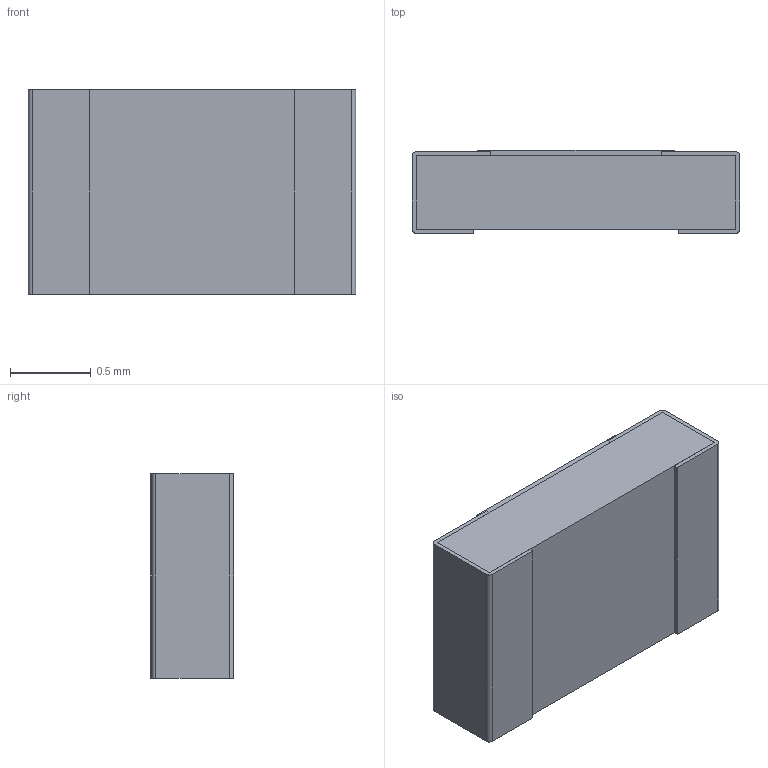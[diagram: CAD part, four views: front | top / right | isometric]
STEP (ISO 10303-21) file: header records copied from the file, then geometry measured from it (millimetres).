
FILE_DESCRIPTION(/* description */ (''),/* implementation_level */ '2;1');
FILE_NAME(/* name */ 'C:\Users\Public\Documents\Autodesk\Inventor LT 2014\Workspace\Vishay\STEP Files\PTN0805.stp',/* time_stamp */ '2020-01-08T14:52:45-06:00',/* author */ ('Neil'),/* organization */ (''),/* preprocessor_version */ 'ST-DEVELOPER v15.2',/* originating_system */ 'Autodesk Inventor LT ',/* authorisation */ '');
FILE_SCHEMA (('AUTOMOTIVE_DESIGN { 1 0 10303 214 3 1 1 }'));
Length unit declared in the file: inch
Products named in the file (1): PTN0805
Bounding box: 2.03 x 0.52 x 1.27 mm (x, y, z)
Volume: 1.3 mm3; surface area: 20.1 mm2
Topology: 5 solids, 5 shells, 98 faces, 264 edges, 176 vertices
Faces by surface type: plane 82, cylinder 16
Entity records: 3090 total; most frequent: CARTESIAN_POINT 539, ORIENTED_EDGE 528, DIRECTION 494, EDGE_CURVE 264, LINE 232, VECTOR 232, VERTEX_POINT 176, AXIS2_PLACEMENT_3D 131
